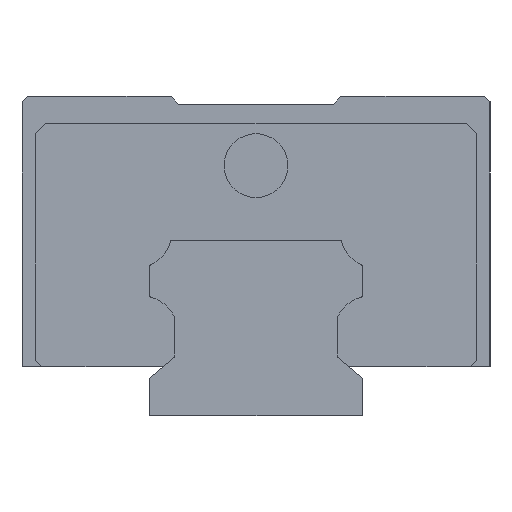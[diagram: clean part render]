
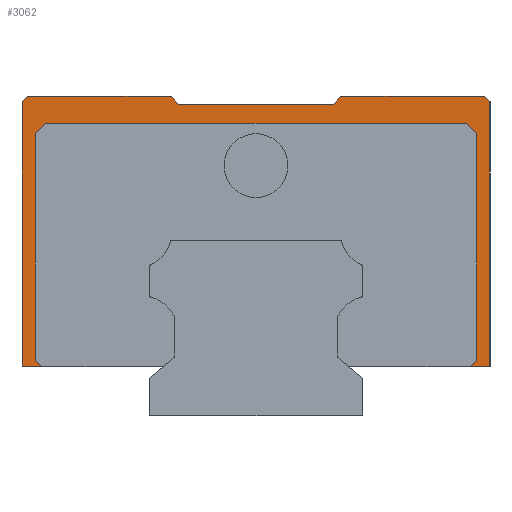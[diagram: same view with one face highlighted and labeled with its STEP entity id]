
A CAD part, left-side view. The second image highlights one B-rep face of the part: STEP entity #3062.
In plain terms, the highlighted planar face has unit normal (-1, 0, 0).
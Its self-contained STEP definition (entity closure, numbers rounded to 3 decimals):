
#18 = CARTESIAN_POINT ( 'NONE',  ( -39., 9., 4.6 ) ) ;
#42 = VECTOR ( 'NONE', #1361, 1000. ) ;
#67 = ORIENTED_EDGE ( 'NONE', *, *, #2954, .F. ) ;
#93 = LINE ( 'NONE', #1986, #3195 ) ;
#139 = CARTESIAN_POINT ( 'NONE',  ( -39., -7.963, 30. ) ) ;
#322 = CARTESIAN_POINT ( 'NONE',  ( -39., -22., 29.5 ) ) ;
#324 = CARTESIAN_POINT ( 'NONE',  ( -39., 22., 4.6 ) ) ;
#408 = EDGE_CURVE ( 'NONE', #1635, #2752, #3125, .T. ) ;
#459 = LINE ( 'NONE', #2408, #42 ) ;
#538 = EDGE_CURVE ( 'NONE', #1974, #935, #4247, .T. ) ;
#662 = DIRECTION ( 'NONE',  ( 0., 0.643, -0.766 ) ) ;
#722 = AXIS2_PLACEMENT_3D ( 'NONE', #5120, #876, #2703 ) ;
#733 = CARTESIAN_POINT ( 'NONE',  ( -39., -20.75, 26.5 ) ) ;
#737 = ORIENTED_EDGE ( 'NONE', *, *, #5775, .F. ) ;
#806 = CARTESIAN_POINT ( 'NONE',  ( -39., 20.75, 26.5 ) ) ;
#809 = EDGE_CURVE ( 'NONE', #4946, #4080, #2162, .T. ) ;
#851 = ORIENTED_EDGE ( 'NONE', *, *, #1219, .T. ) ;
#876 = DIRECTION ( 'NONE',  ( 1., 0., 0. ) ) ;
#880 = EDGE_CURVE ( 'NONE', #4662, #3741, #1851, .T. ) ;
#895 = ORIENTED_EDGE ( 'NONE', *, *, #880, .F. ) ;
#935 = VERTEX_POINT ( 'NONE', #5654 ) ;
#1124 = VECTOR ( 'NONE', #1152, 1000. ) ;
#1142 = DIRECTION ( 'NONE',  ( 0., 1., 0. ) ) ;
#1152 = DIRECTION ( 'NONE',  ( 0., 0.643, 0.766 ) ) ;
#1168 = ORIENTED_EDGE ( 'NONE', *, *, #6042, .F. ) ;
#1178 = DIRECTION ( 'NONE',  ( 0., 0.707, -0.707 ) ) ;
#1205 = ORIENTED_EDGE ( 'NONE', *, *, #2551, .T. ) ;
#1219 = EDGE_CURVE ( 'NONE', #6014, #4957, #5433, .T. ) ;
#1241 = LINE ( 'NONE', #3179, #3286 ) ;
#1301 = CARTESIAN_POINT ( 'NONE',  ( -39., -22., 4.6 ) ) ;
#1361 = DIRECTION ( 'NONE',  ( 0., -1., 0. ) ) ;
#1368 = DIRECTION ( 'NONE',  ( 0., -0.707, 0.707 ) ) ;
#1435 = CARTESIAN_POINT ( 'NONE',  ( -39., -22., 28. ) ) ;
#1537 = ORIENTED_EDGE ( 'NONE', *, *, #3725, .F. ) ;
#1547 = CARTESIAN_POINT ( 'NONE',  ( -39., -22., 27.5 ) ) ;
#1618 = VERTEX_POINT ( 'NONE', #3010 ) ;
#1635 = VERTEX_POINT ( 'NONE', #4536 ) ;
#1664 = DIRECTION ( 'NONE',  ( 0., 0.707, 0.707 ) ) ;
#1734 = DIRECTION ( 'NONE',  ( 0., 0., -1. ) ) ;
#1851 = LINE ( 'NONE', #18, #2431 ) ;
#1860 = CARTESIAN_POINT ( 'NONE',  ( -39., 20.75, 5.2 ) ) ;
#1863 = ORIENTED_EDGE ( 'NONE', *, *, #538, .T. ) ;
#1871 = DIRECTION ( 'NONE',  ( 0., 1., 0. ) ) ;
#1911 = VECTOR ( 'NONE', #5495, 1000. ) ;
#1942 = EDGE_CURVE ( 'NONE', #4080, #5927, #5383, .T. ) ;
#1974 = VERTEX_POINT ( 'NONE', #4858 ) ;
#1986 = CARTESIAN_POINT ( 'NONE',  ( -39., -2.375, 49.625 ) ) ;
#2034 = ORIENTED_EDGE ( 'NONE', *, *, #3146, .F. ) ;
#2044 = CARTESIAN_POINT ( 'NONE',  ( -39., 22., 4.6 ) ) ;
#2105 = ORIENTED_EDGE ( 'NONE', *, *, #1942, .F. ) ;
#2117 = VECTOR ( 'NONE', #2858, 1000. ) ;
#2128 = LINE ( 'NONE', #4017, #3977 ) ;
#2162 = LINE ( 'NONE', #2590, #2336 ) ;
#2193 = EDGE_CURVE ( 'NONE', #6014, #2875, #459, .T. ) ;
#2223 = VECTOR ( 'NONE', #1368, 1000. ) ;
#2305 = FACE_OUTER_BOUND ( 'NONE', #4438, .T. ) ;
#2333 = LINE ( 'NONE', #1435, #5761 ) ;
#2336 = VECTOR ( 'NONE', #1664, 1000. ) ;
#2339 = PLANE ( 'NONE',  #722 ) ;
#2408 = CARTESIAN_POINT ( 'NONE',  ( -39., 22., 30. ) ) ;
#2423 = DIRECTION ( 'NONE',  ( 0., 0., -1. ) ) ;
#2431 = VECTOR ( 'NONE', #5131, 1000. ) ;
#2436 = VECTOR ( 'NONE', #662, 1000. ) ;
#2495 = VECTOR ( 'NONE', #6024, 1000. ) ;
#2513 = LINE ( 'NONE', #2968, #2117 ) ;
#2525 = VERTEX_POINT ( 'NONE', #322 ) ;
#2551 = EDGE_CURVE ( 'NONE', #4957, #4701, #2862, .T. ) ;
#2590 = CARTESIAN_POINT ( 'NONE',  ( -39., -19.625, 27.625 ) ) ;
#2604 = VECTOR ( 'NONE', #2645, 1000. ) ;
#2609 = ORIENTED_EDGE ( 'NONE', *, *, #809, .F. ) ;
#2629 = ORIENTED_EDGE ( 'NONE', *, *, #408, .F. ) ;
#2645 = DIRECTION ( 'NONE',  ( 0., 0.707, 0.707 ) ) ;
#2649 = CARTESIAN_POINT ( 'NONE',  ( -39., -7.963, 30. ) ) ;
#2688 = DIRECTION ( 'NONE',  ( 0., 1., 0. ) ) ;
#2703 = DIRECTION ( 'NONE',  ( 0., 1., 0. ) ) ;
#2752 = VERTEX_POINT ( 'NONE', #5244 ) ;
#2764 = ORIENTED_EDGE ( 'NONE', *, *, #4113, .F. ) ;
#2765 = CARTESIAN_POINT ( 'NONE',  ( -39., -7.333, 29.25 ) ) ;
#2858 = DIRECTION ( 'NONE',  ( 0., -0.707, -0.707 ) ) ;
#2862 = LINE ( 'NONE', #2765, #4084 ) ;
#2870 = CARTESIAN_POINT ( 'NONE',  ( -39., 20.15, 4.6 ) ) ;
#2875 = VERTEX_POINT ( 'NONE', #3541 ) ;
#2902 = CARTESIAN_POINT ( 'NONE',  ( -39., 7.333, 29.25 ) ) ;
#2903 = EDGE_CURVE ( 'NONE', #2525, #2875, #5429, .T. ) ;
#2954 = EDGE_CURVE ( 'NONE', #5407, #4946, #5953, .T. ) ;
#2968 = CARTESIAN_POINT ( 'NONE',  ( -39., 11.775, -3.775 ) ) ;
#3010 = CARTESIAN_POINT ( 'NONE',  ( -39., 7.963, 30. ) ) ;
#3062 = ADVANCED_FACE ( 'NONE', ( #2305 ), #2339, .F. ) ;
#3125 = LINE ( 'NONE', #1301, #4309 ) ;
#3146 = EDGE_CURVE ( 'NONE', #4159, #4662, #2513, .T. ) ;
#3154 = ORIENTED_EDGE ( 'NONE', *, *, #3880, .F. ) ;
#3179 = CARTESIAN_POINT ( 'NONE',  ( -39., 20.75, 30. ) ) ;
#3195 = VECTOR ( 'NONE', #1178, 1000. ) ;
#3226 = ORIENTED_EDGE ( 'NONE', *, *, #2903, .T. ) ;
#3278 = CARTESIAN_POINT ( 'NONE',  ( -39., -20.75, 5.2 ) ) ;
#3286 = VECTOR ( 'NONE', #1734, 1000. ) ;
#3311 = CARTESIAN_POINT ( 'NONE',  ( -39., 21.5, 30. ) ) ;
#3350 = ORIENTED_EDGE ( 'NONE', *, *, #3361, .T. ) ;
#3361 = EDGE_CURVE ( 'NONE', #4701, #1618, #5355, .T. ) ;
#3455 = EDGE_CURVE ( 'NONE', #2752, #5407, #5048, .T. ) ;
#3512 = CARTESIAN_POINT ( 'NONE',  ( -39., -22., 29.5 ) ) ;
#3541 = CARTESIAN_POINT ( 'NONE',  ( -39., -21.5, 30. ) ) ;
#3606 = CARTESIAN_POINT ( 'NONE',  ( -39., -20.75, 30. ) ) ;
#3725 = EDGE_CURVE ( 'NONE', #3741, #935, #4573, .T. ) ;
#3741 = VERTEX_POINT ( 'NONE', #2044 ) ;
#3880 = EDGE_CURVE ( 'NONE', #5927, #4050, #93, .T. ) ;
#3977 = VECTOR ( 'NONE', #6027, 1000. ) ;
#4017 = CARTESIAN_POINT ( 'NONE',  ( -39., 22., 30. ) ) ;
#4050 = VERTEX_POINT ( 'NONE', #806 ) ;
#4080 = VERTEX_POINT ( 'NONE', #5023 ) ;
#4084 = VECTOR ( 'NONE', #1871, 1000. ) ;
#4113 = EDGE_CURVE ( 'NONE', #2525, #1635, #2333, .T. ) ;
#4159 = VERTEX_POINT ( 'NONE', #1860 ) ;
#4247 = LINE ( 'NONE', #3311, #4709 ) ;
#4309 = VECTOR ( 'NONE', #2688, 1000. ) ;
#4438 = EDGE_LOOP ( 'NONE', ( #2034, #737, #3154, #2105, #2609, #67, #5326, #2629, #2764, #3226, #4713, #851, #1205, #3350, #1168, #1863, #1537, #895 ) ) ;
#4536 = CARTESIAN_POINT ( 'NONE',  ( -39., -22., 4.6 ) ) ;
#4573 = LINE ( 'NONE', #324, #2495 ) ;
#4662 = VERTEX_POINT ( 'NONE', #2870 ) ;
#4701 = VERTEX_POINT ( 'NONE', #2902 ) ;
#4709 = VECTOR ( 'NONE', #6065, 1000. ) ;
#4713 = ORIENTED_EDGE ( 'NONE', *, *, #2193, .F. ) ;
#4858 = CARTESIAN_POINT ( 'NONE',  ( -39., 21.5, 30. ) ) ;
#4946 = VERTEX_POINT ( 'NONE', #733 ) ;
#4957 = VERTEX_POINT ( 'NONE', #5410 ) ;
#5023 = CARTESIAN_POINT ( 'NONE',  ( -39., -19.75, 27.5 ) ) ;
#5048 = LINE ( 'NONE', #5609, #2223 ) ;
#5120 = CARTESIAN_POINT ( 'NONE',  ( -39., -22., 30. ) ) ;
#5131 = DIRECTION ( 'NONE',  ( 0., 1., 0. ) ) ;
#5244 = CARTESIAN_POINT ( 'NONE',  ( -39., -20.15, 4.6 ) ) ;
#5287 = CARTESIAN_POINT ( 'NONE',  ( -39., 19.75, 27.5 ) ) ;
#5326 = ORIENTED_EDGE ( 'NONE', *, *, #3455, .F. ) ;
#5355 = LINE ( 'NONE', #5393, #1124 ) ;
#5383 = LINE ( 'NONE', #1547, #5677 ) ;
#5393 = CARTESIAN_POINT ( 'NONE',  ( -39., 7.333, 29.25 ) ) ;
#5407 = VERTEX_POINT ( 'NONE', #3278 ) ;
#5410 = CARTESIAN_POINT ( 'NONE',  ( -39., -7.333, 29.25 ) ) ;
#5429 = LINE ( 'NONE', #3512, #2604 ) ;
#5433 = LINE ( 'NONE', #2649, #2436 ) ;
#5495 = DIRECTION ( 'NONE',  ( 0., 0., 1. ) ) ;
#5609 = CARTESIAN_POINT ( 'NONE',  ( -39., -33.775, 18.225 ) ) ;
#5654 = CARTESIAN_POINT ( 'NONE',  ( -39., 22., 29.5 ) ) ;
#5677 = VECTOR ( 'NONE', #1142, 1000. ) ;
#5761 = VECTOR ( 'NONE', #2423, 1000. ) ;
#5775 = EDGE_CURVE ( 'NONE', #4050, #4159, #1241, .T. ) ;
#5927 = VERTEX_POINT ( 'NONE', #5287 ) ;
#5953 = LINE ( 'NONE', #3606, #1911 ) ;
#6014 = VERTEX_POINT ( 'NONE', #139 ) ;
#6024 = DIRECTION ( 'NONE',  ( 0., 0., 1. ) ) ;
#6027 = DIRECTION ( 'NONE',  ( 0., -1., 0. ) ) ;
#6042 = EDGE_CURVE ( 'NONE', #1974, #1618, #2128, .T. ) ;
#6065 = DIRECTION ( 'NONE',  ( 0., 0.707, -0.707 ) ) ;
